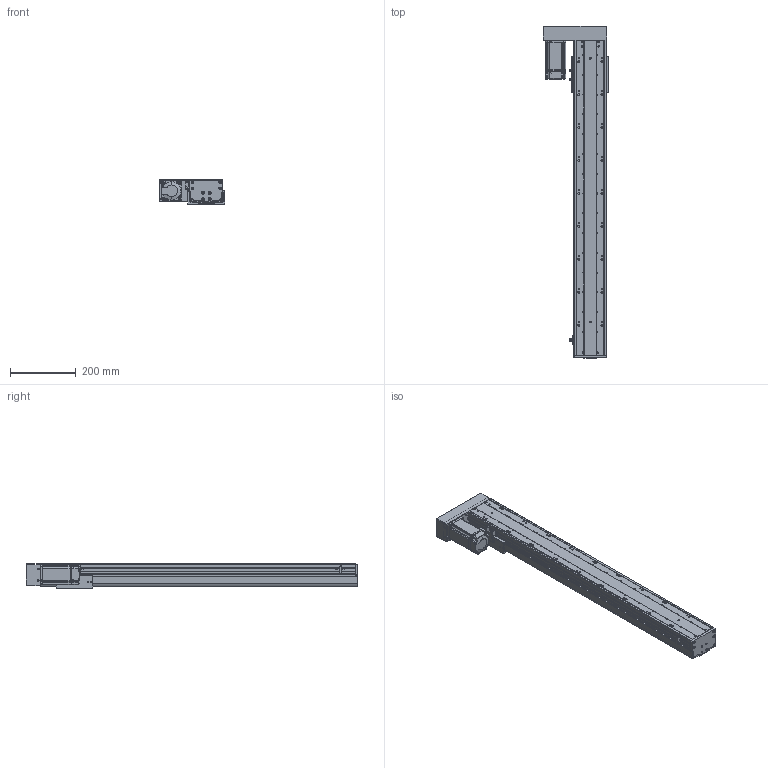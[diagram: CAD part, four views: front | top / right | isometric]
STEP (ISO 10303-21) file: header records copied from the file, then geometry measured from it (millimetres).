
FILE_DESCRIPTION (( 'STEP AP203' ), '1' );
FILE_NAME ('RY100FBS-L1610-300-LK(15双轨）.SLDASM_750.step', '2021-02-23T01:49:31', ( '盈信电脑' ), ( '东莞市道滘镇水果街19号' ), 'SwSTEP 2.0', 'SolidWorks 2012', '' );
FILE_SCHEMA (( 'CONFIG_CONTROL_DESIGN' ));
Length unit declared in the file: millimetre
Products named in the file (14): RY100FBS-L1610-300-LK(15双轨）.SLDASM_750; RY100FBS-酘衵殏萇儂欶; RY100FBS-酘衵殏萇儂啣; 侂狟400W侜督萇儂; RY100FBS-后盖板(15双轨）; RY100FBS-嫖萇覜茼え; 15; 覜茼ん672; 滅袉蝶18-15; 滅袉蝶18-24; RY100FBS-铝滑块（16丝杆）; RY100FBS-转折支撑座（15双轨）; RY100FBS-300蛌殏奻裔啣-LK_750; RY100FBS-300蛌殏菁釱-LK_750
Assembly tree (15 placements, depth 3):
  RY100FBS-L1610-300-LK(15双轨）.SLDASM_750
    RY100FBS-300蛌殏菁釱-LK_750
    RY100FBS-300蛌殏奻裔啣-LK_750
    RY100FBS-转折支撑座（15双轨）
    滅袉蝶18-24
    滅袉蝶18-15
    RY100FBS-铝滑块（16丝杆）
    覜茼ん672  x3
    RY100FBS-嫖萇覜茼え
    侂狟400W侜督萇儂
      15
    RY100FBS-后盖板(15双轨）
    RY100FBS-酘衵殏萇儂啣
    RY100FBS-酘衵殏萇儂欶
Bounding box: 198.75 x 1007 x 74 mm (x, y, z)
Volume: 2670809.1 mm3; surface area: 985921.7 mm2
Topology: 14 solids, 14 shells, 1659 faces, 4718 edges, 3062 vertices
Faces by surface type: cylinder 807, plane 700, cone 126, bspline 26
Entity records: 52553 total; most frequent: CARTESIAN_POINT 11150, DIRECTION 8449, ORIENTED_EDGE 8312, EDGE_CURVE 4156, AXIS2_PLACEMENT_3D 3061, VERTEX_POINT 2742, LINE 2327, VECTOR 2327
